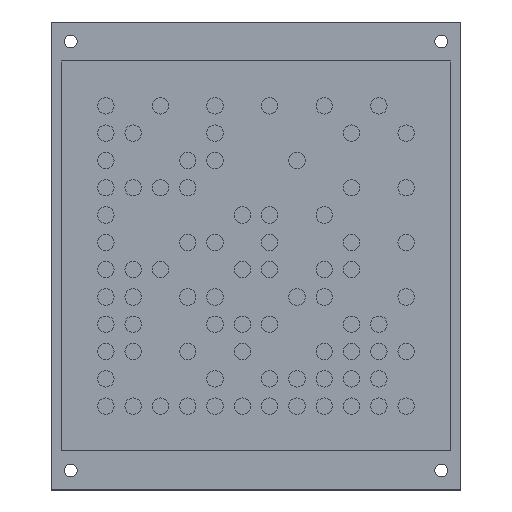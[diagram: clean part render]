
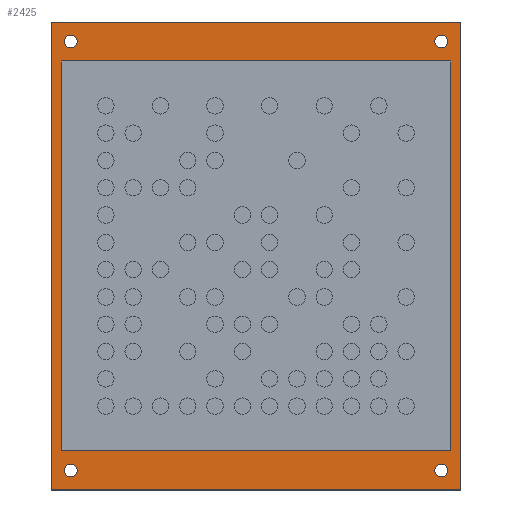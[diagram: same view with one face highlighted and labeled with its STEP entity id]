
A CAD part, top view. The second image highlights one B-rep face of the part: STEP entity #2425.
In plain terms, the highlighted planar face has unit normal (0, 0, 1).
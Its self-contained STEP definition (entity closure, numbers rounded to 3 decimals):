
#176=FACE_BOUND('',#775,.T.);
#177=FACE_BOUND('',#776,.T.);
#178=FACE_BOUND('',#777,.T.);
#179=FACE_BOUND('',#778,.T.);
#180=FACE_BOUND('',#779,.T.);
#264=CIRCLE('',#2532,1.65);
#266=CIRCLE('',#2535,1.65);
#268=CIRCLE('',#2538,1.65);
#270=CIRCLE('',#2541,1.65);
#522=FACE_OUTER_BOUND('',#774,.T.);
#774=EDGE_LOOP('',(#1980,#1981,#1982,#1983));
#775=EDGE_LOOP('',(#1984,#1985,#1986,#1987));
#776=EDGE_LOOP('',(#1988));
#777=EDGE_LOOP('',(#1989));
#778=EDGE_LOOP('',(#1990));
#779=EDGE_LOOP('',(#1991));
#785=LINE('',#3577,#892);
#789=LINE('',#3585,#896);
#792=LINE('',#3591,#899);
#795=LINE('',#3596,#902);
#882=LINE('',#4183,#989);
#885=LINE('',#4189,#992);
#888=LINE('',#4195,#995);
#891=LINE('',#4199,#998);
#892=VECTOR('',#2790,10.);
#896=VECTOR('',#2796,10.);
#899=VECTOR('',#2801,10.);
#902=VECTOR('',#2806,10.);
#989=VECTOR('',#3553,10.);
#992=VECTOR('',#3558,10.);
#995=VECTOR('',#3563,10.);
#998=VECTOR('',#3568,10.);
#999=VERTEX_POINT('',#3575);
#1000=VERTEX_POINT('',#3576);
#1003=VERTEX_POINT('',#3584);
#1005=VERTEX_POINT('',#3590);
#1086=VERTEX_POINT('',#3758);
#1088=VERTEX_POINT('',#3764);
#1090=VERTEX_POINT('',#3770);
#1092=VERTEX_POINT('',#3776);
#1175=VERTEX_POINT('',#4180);
#1176=VERTEX_POINT('',#4182);
#1178=VERTEX_POINT('',#4188);
#1180=VERTEX_POINT('',#4194);
#1181=EDGE_CURVE('',#999,#1000,#785,.T.);
#1185=EDGE_CURVE('',#1003,#999,#789,.T.);
#1188=EDGE_CURVE('',#1005,#1003,#792,.T.);
#1191=EDGE_CURVE('',#1000,#1005,#795,.T.);
#1272=EDGE_CURVE('',#1086,#1086,#264,.T.);
#1275=EDGE_CURVE('',#1088,#1088,#266,.T.);
#1278=EDGE_CURVE('',#1090,#1090,#268,.T.);
#1281=EDGE_CURVE('',#1092,#1092,#270,.T.);
#1444=EDGE_CURVE('',#1176,#1175,#882,.T.);
#1447=EDGE_CURVE('',#1178,#1176,#885,.T.);
#1450=EDGE_CURVE('',#1180,#1178,#888,.T.);
#1453=EDGE_CURVE('',#1175,#1180,#891,.T.);
#1980=ORIENTED_EDGE('',*,*,#1453,.T.);
#1981=ORIENTED_EDGE('',*,*,#1450,.T.);
#1982=ORIENTED_EDGE('',*,*,#1447,.T.);
#1983=ORIENTED_EDGE('',*,*,#1444,.T.);
#1984=ORIENTED_EDGE('',*,*,#1181,.T.);
#1985=ORIENTED_EDGE('',*,*,#1191,.T.);
#1986=ORIENTED_EDGE('',*,*,#1188,.T.);
#1987=ORIENTED_EDGE('',*,*,#1185,.T.);
#1988=ORIENTED_EDGE('',*,*,#1272,.T.);
#1989=ORIENTED_EDGE('',*,*,#1275,.T.);
#1990=ORIENTED_EDGE('',*,*,#1278,.T.);
#1991=ORIENTED_EDGE('',*,*,#1281,.T.);
#2088=PLANE('',#2784);
#2425=ADVANCED_FACE('',(#522,#176,#177,#178,#179,#180),#2088,.T.);
#2532=AXIS2_PLACEMENT_3D('',#3759,#2970,#2971);
#2535=AXIS2_PLACEMENT_3D('',#3765,#2977,#2978);
#2538=AXIS2_PLACEMENT_3D('',#3771,#2984,#2985);
#2541=AXIS2_PLACEMENT_3D('',#3777,#2991,#2992);
#2784=AXIS2_PLACEMENT_3D('',#4200,#3569,#3570);
#2790=DIRECTION('',(0.,-1.,0.));
#2796=DIRECTION('',(1.,0.,0.));
#2801=DIRECTION('',(0.,1.,0.));
#2806=DIRECTION('',(-1.,0.,0.));
#2970=DIRECTION('center_axis',(0.,0.,-1.));
#2971=DIRECTION('ref_axis',(1.,0.,0.));
#2977=DIRECTION('center_axis',(0.,0.,-1.));
#2978=DIRECTION('ref_axis',(-1.,0.,0.));
#2984=DIRECTION('center_axis',(0.,0.,-1.));
#2985=DIRECTION('ref_axis',(-1.,0.,0.));
#2991=DIRECTION('center_axis',(0.,0.,-1.));
#2992=DIRECTION('ref_axis',(1.,0.,0.));
#3553=DIRECTION('',(0.,-1.,0.));
#3558=DIRECTION('',(-1.,0.,0.));
#3563=DIRECTION('',(0.,1.,0.));
#3568=DIRECTION('',(1.,0.,0.));
#3569=DIRECTION('center_axis',(0.,0.,1.));
#3570=DIRECTION('ref_axis',(1.,0.,0.));
#3575=CARTESIAN_POINT('',(50.,50.,2.));
#3576=CARTESIAN_POINT('',(50.,-50.,2.));
#3577=CARTESIAN_POINT('',(50.,25.,2.));
#3584=CARTESIAN_POINT('',(-50.,50.,2.));
#3585=CARTESIAN_POINT('',(-25.,50.,2.));
#3590=CARTESIAN_POINT('',(-50.,-50.,2.));
#3591=CARTESIAN_POINT('',(-50.,-25.,2.));
#3596=CARTESIAN_POINT('',(25.,-50.,2.));
#3758=CARTESIAN_POINT('',(-49.15,-55.,2.));
#3759=CARTESIAN_POINT('Origin',(-47.5,-55.,2.));
#3764=CARTESIAN_POINT('',(-45.85,55.,2.));
#3765=CARTESIAN_POINT('Origin',(-47.5,55.,2.));
#3770=CARTESIAN_POINT('',(49.15,-55.,2.));
#3771=CARTESIAN_POINT('Origin',(47.5,-55.,2.));
#3776=CARTESIAN_POINT('',(45.85,55.,2.));
#3777=CARTESIAN_POINT('Origin',(47.5,55.,2.));
#4180=CARTESIAN_POINT('',(-52.5,-60.,2.));
#4182=CARTESIAN_POINT('',(-52.5,60.,2.));
#4183=CARTESIAN_POINT('',(-52.5,60.,2.));
#4188=CARTESIAN_POINT('',(52.5,60.,2.));
#4189=CARTESIAN_POINT('',(52.5,60.,2.));
#4194=CARTESIAN_POINT('',(52.5,-60.,2.));
#4195=CARTESIAN_POINT('',(52.5,-60.,2.));
#4199=CARTESIAN_POINT('',(-52.5,-60.,2.));
#4200=CARTESIAN_POINT('Origin',(0.,0.,
2.));
